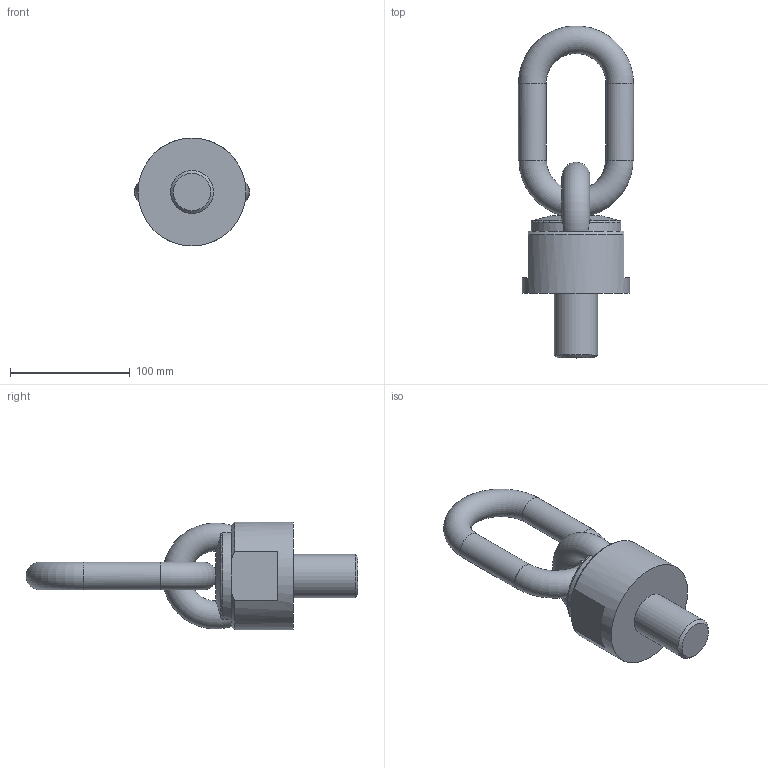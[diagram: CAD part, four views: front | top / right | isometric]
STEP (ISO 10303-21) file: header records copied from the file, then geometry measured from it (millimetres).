
FILE_DESCRIPTION( ( 'STEP AP203' ), '1' );
FILE_NAME( 'p:/temp/worker_21/temp/app_52_0201906261455574310699710e898ce_000000_00_00_000000/format_1/C800X1003654.stp', '2019-06-26T12:55:58', ( '' ), ( '' ), ' ', 'PARTsolutions', ' ' );
FILE_SCHEMA( ( 'CONFIG_CONTROL_DESIGN' ) );
Length unit declared in the file: millimetre
Products named in the file (1): _C800X1003654
Bounding box: 96 x 276.89 x 90 mm (x, y, z)
Volume: 617788.8 mm3; surface area: 67418.5 mm2
Topology: 1 solids, 1 shells, 28 faces, 70 edges, 44 vertices
Faces by surface type: plane 12, cylinder 6, torus 5, cone 5
Full cylindrical faces by diameter (mm): 23 x2, 36 x1, 90 x1
Entity records: 1192 total; most frequent: CARTESIAN_POINT 542, DIRECTION 122, ORIENTED_EDGE 116, EDGE_CURVE 58, AXIS2_PLACEMENT_3D 57, EDGE_LOOP 42, VERTEX_POINT 41, FACE_OUTER_BOUND 35
